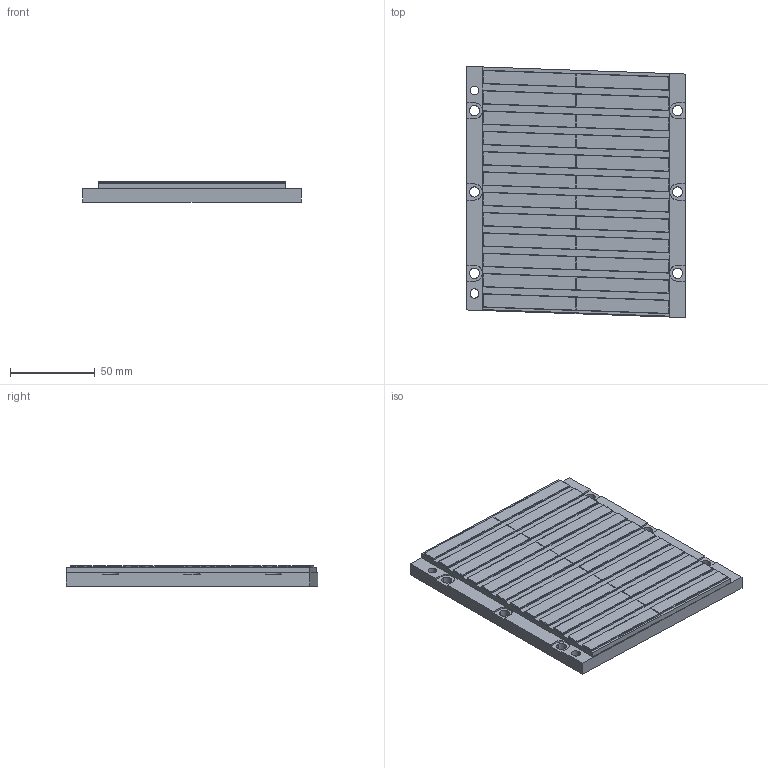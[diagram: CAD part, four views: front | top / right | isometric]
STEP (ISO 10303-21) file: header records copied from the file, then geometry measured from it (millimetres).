
FILE_DESCRIPTION (( 'STEP AP203' ), '1' );
FILE_NAME ('MP124-144 3d.STEP', '2022-10-20T15:49:13', ( '' ), ( '' ), 'SwSTEP 2.0', 'SolidWorks 2021', '' );
FILE_SCHEMA (( 'CONFIG_CONTROL_DESIGN' ));
Length unit declared in the file: millimetre
Products named in the file (1): MP124-144 3d
Bounding box: 129 x 148.35 x 12 mm (x, y, z)
Volume: 204729.3 mm3; surface area: 46337.6 mm2
Topology: 1 solids, 1 shells, 452 faces, 1086 edges, 552 vertices
Faces by surface type: cylinder 218, plane 138, sphere 96
Entity records: 12239 total; most frequent: DIRECTION 2344, CARTESIAN_POINT 1995, ORIENTED_EDGE 1980, EDGE_CURVE 990, AXIS2_PLACEMENT_3D 901, VERTEX_POINT 552, VECTOR 542, LINE 542
